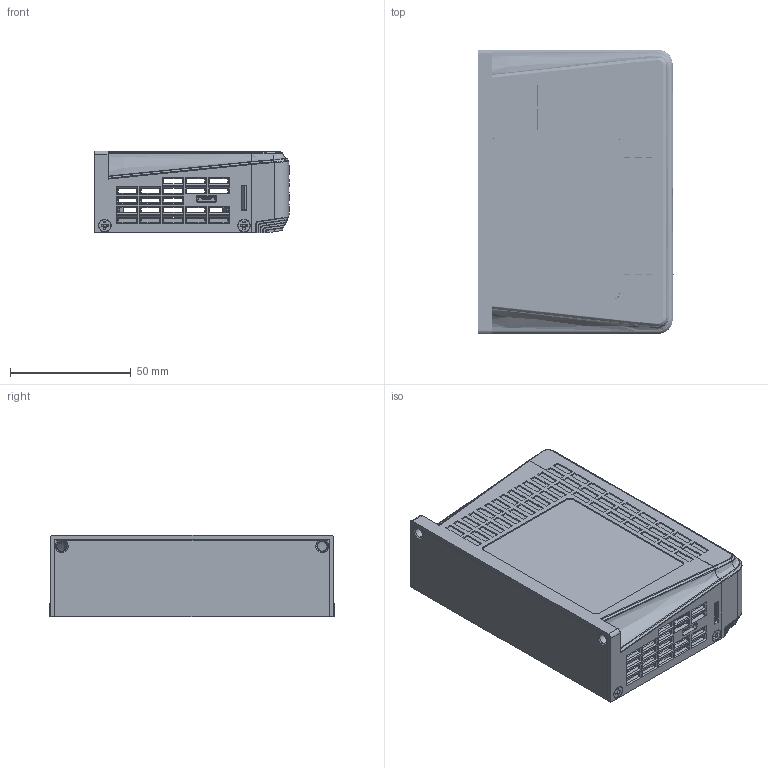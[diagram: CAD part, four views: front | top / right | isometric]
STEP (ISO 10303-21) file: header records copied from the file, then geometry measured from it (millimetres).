
FILE_DESCRIPTION (( 'STEP AP203' ), '1' );
FILE_NAME ('2DM556-R.STEP', '2022-02-17T10:48:28', ( 'USER-' ), ( 'MS' ), 'SwSTEP 2.0', 'SolidWorks 2018', '' );
FILE_SCHEMA (( 'CONFIG_CONTROL_DESIGN' ));
Length unit declared in the file: millimetre
Products named in the file (24): 2DM556-R; 2DM556-EC.sldasm-Part-16; 2DM556-EC.sldasm-Part-8; 2DM556-EC.sldasm-Part-17; 2DM556-EC.sldasm-Part-9; 2DM556-EC.sldasm-Part-1; 2DM556-EC.sldasm-Part-18; 2DM556-EC.sldasm-Part-10; 2DM556-EC.sldasm-Part-2; 2DM556-EC.sldasm-Part-19; 2DM556-EC.sldasm-Part-11; 2DM556-EC.sldasm-Part-3; 2DM556-EC.sldasm-Part-20; 2DM556-EC.sldasm-Part-12; 2DM556-EC.sldasm-Part-4; 2DM556-EC.sldasm-Part-21; 2DM556-EC.sldasm-Part-13; 2DM556-EC.sldasm-Part-5; 2DM556-EC.sldasm-Part-22; 2DM556-EC.sldasm-Part-14; 2DM556-EC.sldasm-Part-6; 2DM556-EC.sldasm-Part-23; 2DM556-EC.sldasm-Part-15; 2DM556-EC.sldasm-Part-7
Assembly tree (23 placements, depth 2):
  2DM556-R
    2DM556-EC.sldasm-Part-1
    2DM556-EC.sldasm-Part-2
    2DM556-EC.sldasm-Part-3
    2DM556-EC.sldasm-Part-4
    2DM556-EC.sldasm-Part-5
    2DM556-EC.sldasm-Part-6
    2DM556-EC.sldasm-Part-7
    2DM556-EC.sldasm-Part-8
    2DM556-EC.sldasm-Part-9
    2DM556-EC.sldasm-Part-10
    2DM556-EC.sldasm-Part-11
    2DM556-EC.sldasm-Part-12
    2DM556-EC.sldasm-Part-13
    2DM556-EC.sldasm-Part-14
    2DM556-EC.sldasm-Part-15
    2DM556-EC.sldasm-Part-16
    2DM556-EC.sldasm-Part-17
    2DM556-EC.sldasm-Part-18
    2DM556-EC.sldasm-Part-19
    2DM556-EC.sldasm-Part-20
    2DM556-EC.sldasm-Part-21
    2DM556-EC.sldasm-Part-22
    2DM556-EC.sldasm-Part-23
Bounding box: 80.86 x 117.95 x 34 mm (x, y, z)
Volume: 100054.2 mm3; surface area: 104647 mm2
Topology: 23 solids, 23 shells, 4950 faces, 13748 edges, 8831 vertices
Faces by surface type: plane 3165, cylinder 1248, bspline 339, cone 100, torus 62, sphere 36
Entity records: 196916 total; most frequent: CARTESIAN_POINT 72728, ORIENTED_EDGE 27140, DIRECTION 22681, EDGE_CURVE 13570, VECTOR 9831, LINE 9831, VERTEX_POINT 8831, AXIS2_PLACEMENT_3D 6425
